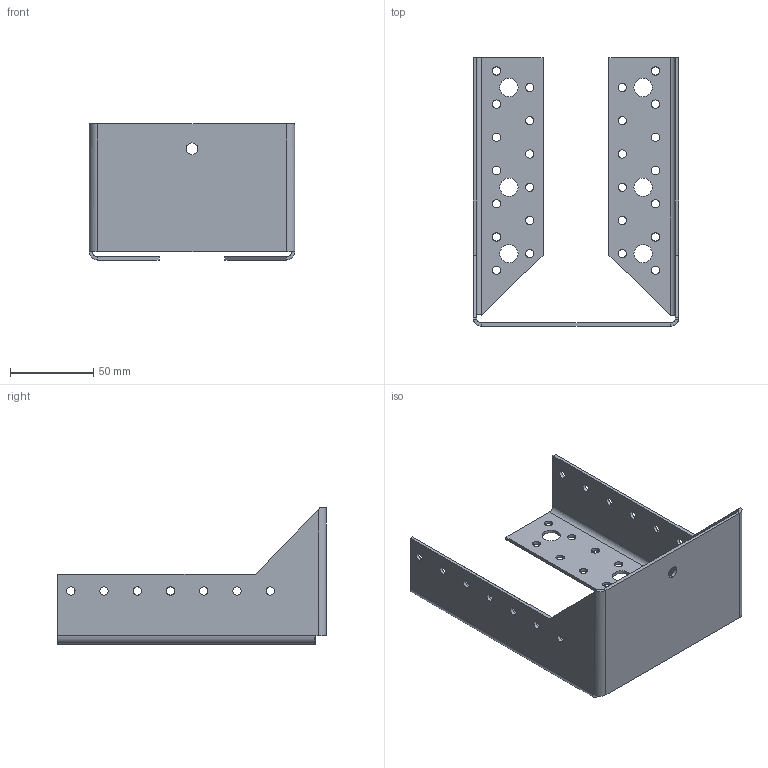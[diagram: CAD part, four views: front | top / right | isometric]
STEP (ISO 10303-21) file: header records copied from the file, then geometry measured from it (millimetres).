
FILE_DESCRIPTION (( 'STEP AP203' ), '1' );
FILE_NAME ('30511IKO.STEP', '2020-04-09T13:49:05', ( '' ), ( '' ), 'SwSTEP 2.0', 'SolidWorks 2013', '' );
FILE_SCHEMA (( 'CONFIG_CONTROL_DESIGN' ));
Length unit declared in the file: millimetre
Products named in the file (1): 30511IKO
Bounding box: 123.72 x 161.86 x 82 mm (x, y, z)
Volume: 66989 mm3; surface area: 70941 mm2
Topology: 1 solids, 1 shells, 139 faces, 379 edges, 242 vertices
Faces by surface type: cylinder 102, plane 35, bspline 2
Entity records: 4740 total; most frequent: DIRECTION 851, CARTESIAN_POINT 797, ORIENTED_EDGE 758, EDGE_CURVE 379, AXIS2_PLACEMENT_3D 342, VERTEX_POINT 242, EDGE_LOOP 233, CIRCLE 204
